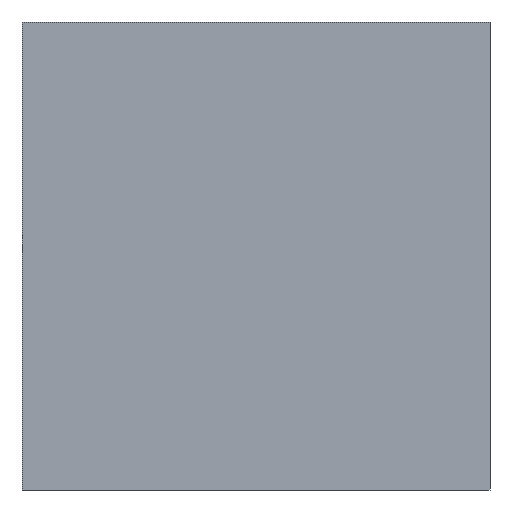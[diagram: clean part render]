
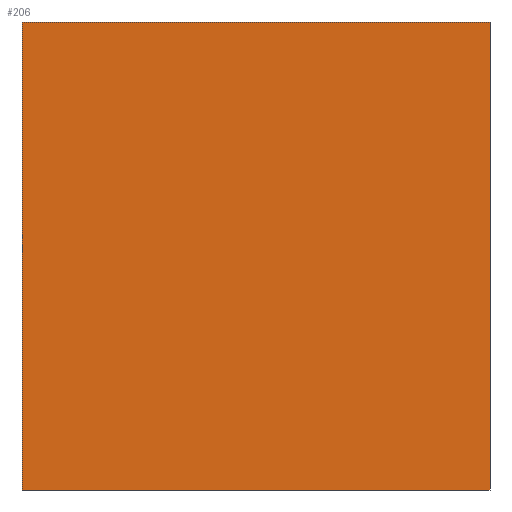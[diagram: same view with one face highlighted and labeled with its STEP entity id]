
A CAD part, left-side view. The second image highlights one B-rep face of the part: STEP entity #206.
In plain terms, the highlighted planar face has unit normal (-1, 0, 0).
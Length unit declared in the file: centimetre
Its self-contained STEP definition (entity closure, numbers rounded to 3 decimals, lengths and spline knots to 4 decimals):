
#26 = CARTESIAN_POINT ( 'NONE',  ( 0., 1000., 1000. ) ) ;
#47 = DIRECTION ( 'NONE',  ( 0., -1., 0. ) ) ;
#53 = EDGE_LOOP ( 'NONE', ( #266, #292, #366, #121 ) ) ;
#65 = EDGE_CURVE ( 'NONE', #104, #179, #311, .T. ) ;
#83 = FACE_OUTER_BOUND ( 'NONE', #53, .T. ) ;
#84 = VECTOR ( 'NONE', #310, 100. ) ;
#90 = LINE ( 'NONE', #139, #84 ) ;
#94 = DIRECTION ( 'NONE',  ( 0., -1., 0. ) ) ;
#97 = CARTESIAN_POINT ( 'NONE',  ( 0., 0., 0. ) ) ;
#104 = VERTEX_POINT ( 'NONE', #286 ) ;
#112 = LINE ( 'NONE', #345, #161 ) ;
#121 = ORIENTED_EDGE ( 'NONE', *, *, #65, .T. ) ;
#134 = DIRECTION ( 'NONE',  ( 0., 0., -1. ) ) ;
#139 = CARTESIAN_POINT ( 'NONE',  ( 0., 0., 1000. ) ) ;
#161 = VECTOR ( 'NONE', #47, 100. ) ;
#166 = CARTESIAN_POINT ( 'NONE',  ( 0., 1000., 1000. ) ) ;
#167 = DIRECTION ( 'NONE',  ( 1., 0., 0. ) ) ;
#179 = VERTEX_POINT ( 'NONE', #353 ) ;
#187 = DIRECTION ( 'NONE',  ( 0., 0., -1. ) ) ;
#204 = VECTOR ( 'NONE', #187, 100. ) ;
#206 = ADVANCED_FACE ( 'NONE', ( #83 ), #279, .F. ) ;
#218 = VERTEX_POINT ( 'NONE', #331 ) ;
#230 = VECTOR ( 'NONE', #94, 100. ) ;
#245 = AXIS2_PLACEMENT_3D ( 'NONE', #26, #167, #134 ) ;
#251 = EDGE_CURVE ( 'NONE', #104, #218, #112, .T. ) ;
#266 = ORIENTED_EDGE ( 'NONE', *, *, #339, .T. ) ;
#267 = EDGE_CURVE ( 'NONE', #218, #344, #90, .T. ) ;
#279 = PLANE ( 'NONE',  #245 ) ;
#286 = CARTESIAN_POINT ( 'NONE',  ( 0., 1000., 1000. ) ) ;
#292 = ORIENTED_EDGE ( 'NONE', *, *, #267, .F. ) ;
#310 = DIRECTION ( 'NONE',  ( 0., 0., -1. ) ) ;
#311 = LINE ( 'NONE', #166, #204 ) ;
#319 = LINE ( 'NONE', #321, #230 ) ;
#321 = CARTESIAN_POINT ( 'NONE',  ( 0., 1000., 0. ) ) ;
#331 = CARTESIAN_POINT ( 'NONE',  ( 0., 0., 1000. ) ) ;
#339 = EDGE_CURVE ( 'NONE', #179, #344, #319, .T. ) ;
#344 = VERTEX_POINT ( 'NONE', #97 ) ;
#345 = CARTESIAN_POINT ( 'NONE',  ( 0., 1000., 1000. ) ) ;
#353 = CARTESIAN_POINT ( 'NONE',  ( 0., 1000., 0. ) ) ;
#366 = ORIENTED_EDGE ( 'NONE', *, *, #251, .F. ) ;
